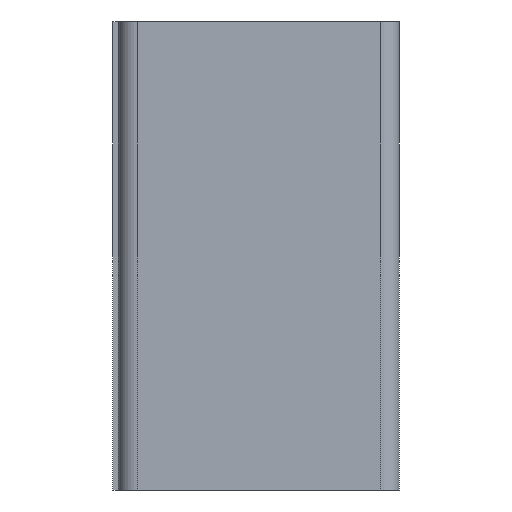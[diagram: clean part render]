
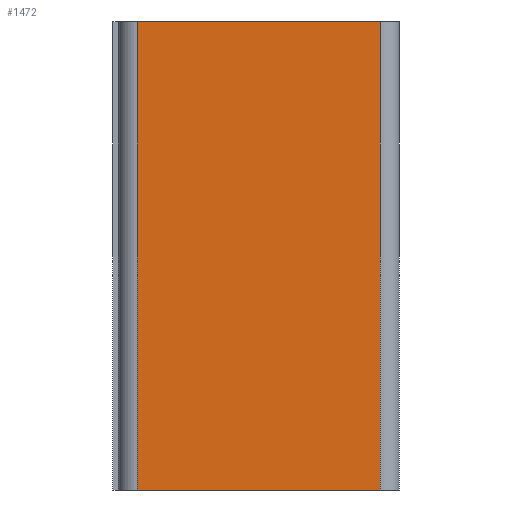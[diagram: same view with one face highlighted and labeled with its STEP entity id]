
A CAD part, left-side view. The second image highlights one B-rep face of the part: STEP entity #1472.
In plain terms, the highlighted planar face has unit normal (-1, 0, 0).
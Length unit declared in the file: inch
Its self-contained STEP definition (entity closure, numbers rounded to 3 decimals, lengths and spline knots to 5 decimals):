
#62=FACE_OUTER_BOUND('',#144,.T.);
#144=EDGE_LOOP('',(#1000,#1001,#1002,#1003));
#230=LINE('',#2101,#422);
#232=LINE('',#2107,#424);
#240=LINE('',#2125,#432);
#241=LINE('',#2126,#433);
#422=VECTOR('',#1693,0.025);
#424=VECTOR('',#1699,0.013);
#432=VECTOR('',#1711,0.013);
#433=VECTOR('',#1712,0.025);
#611=VERTEX_POINT('',#2098);
#612=VERTEX_POINT('',#2100);
#614=VERTEX_POINT('',#2106);
#622=VERTEX_POINT('',#2124);
#759=EDGE_CURVE('',#611,#612,#230,.T.);
#762=EDGE_CURVE('',#612,#614,#232,.T.);
#771=EDGE_CURVE('',#622,#611,#240,.T.);
#772=EDGE_CURVE('',#614,#622,#241,.T.);
#1000=ORIENTED_EDGE('',*,*,#759,.F.);
#1001=ORIENTED_EDGE('',*,*,#771,.F.);
#1002=ORIENTED_EDGE('',*,*,#772,.F.);
#1003=ORIENTED_EDGE('',*,*,#762,.F.);
#1401=PLANE('',#1568);
#1472=ADVANCED_FACE('',(#62),#1401,.T.);
#1568=AXIS2_PLACEMENT_3D('',#2123,#1709,#1710);
#1693=DIRECTION('',(0.,0.,-1.));
#1699=DIRECTION('',(0.,1.,0.));
#1709=DIRECTION('center_axis',(-1.,0.,0.));
#1710=DIRECTION('ref_axis',(0.,-1.,0.));
#1711=DIRECTION('',(0.,-1.,0.));
#1712=DIRECTION('',(0.,0.,1.));
#2098=CARTESIAN_POINT('',(-0.0275,0.001,0.0125));
#2100=CARTESIAN_POINT('',(-0.0275,0.001,-0.0125));
#2101=CARTESIAN_POINT('',(-0.0275,0.001,0.));
#2106=CARTESIAN_POINT('',(-0.0275,0.014,-0.0125));
#2107=CARTESIAN_POINT('',(-0.0275,0.015,-0.0125));
#2123=CARTESIAN_POINT('Origin',(-0.0275,0.015,0.));
#2124=CARTESIAN_POINT('',(-0.0275,0.014,0.0125));
#2125=CARTESIAN_POINT('',(-0.0275,0.015,0.0125));
#2126=CARTESIAN_POINT('',(-0.0275,0.014,0.));
